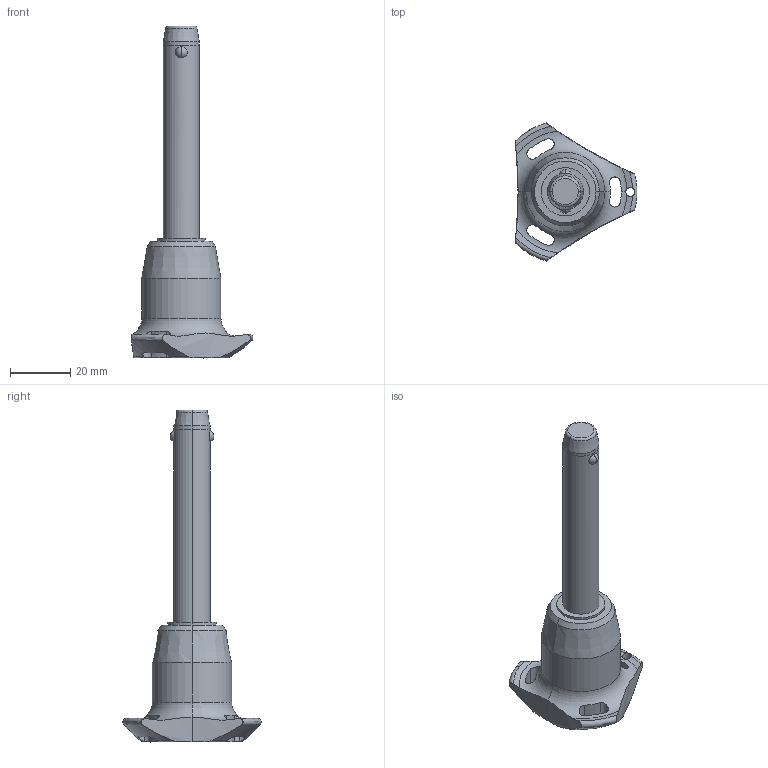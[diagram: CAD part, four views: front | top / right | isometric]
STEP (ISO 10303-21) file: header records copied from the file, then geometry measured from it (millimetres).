
FILE_DESCRIPTION (( 'STEP AP203' ), '1' );
FILE_NAME ('QR1726.M12-060-T.step', '2025-11-13T11:15:36', ( '' ), ( '' ), 'SwSTEP 2.0', 'SolidWorks 2019', '' );
FILE_SCHEMA (( 'CONFIG_CONTROL_DESIGN' ));
Length unit declared in the file: millimetre
Products named in the file (1): QR1726.M12-060-T
Bounding box: 40.5 x 45.88 x 110.3 mm (x, y, z)
Volume: 30019.6 mm3; surface area: 8578.4 mm2
Topology: 1 solids, 1 shells, 68 faces, 184 edges, 117 vertices
Faces by surface type: cylinder 32, cone 14, torus 11, sphere 6, plane 5
Entity records: 2950 total; most frequent: CARTESIAN_POINT 1194, ORIENTED_EDGE 368, DIRECTION 345, EDGE_CURVE 184, AXIS2_PLACEMENT_3D 154, VERTEX_POINT 117, CIRCLE 85, EDGE_LOOP 75
